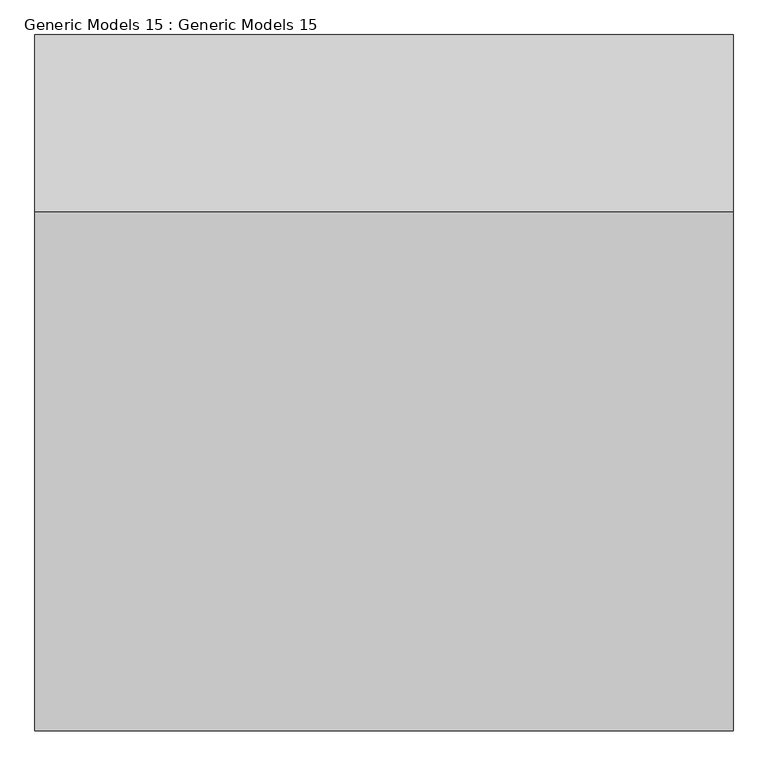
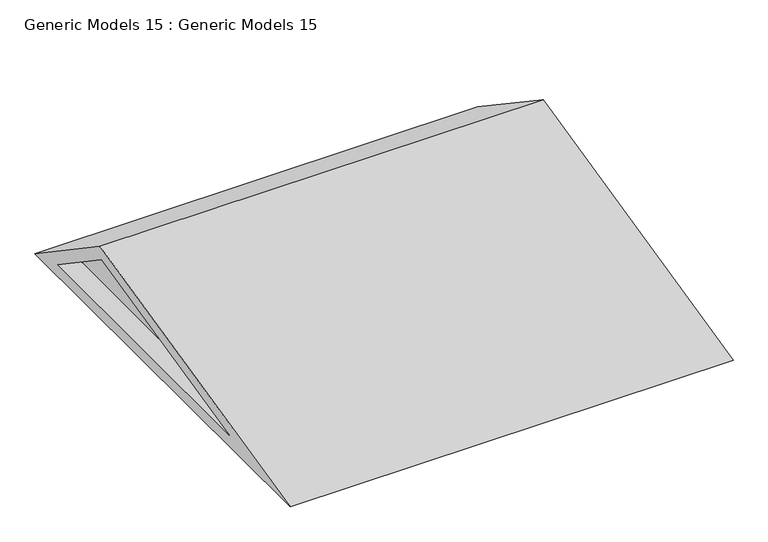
"""IFC4 building model written with IfcOpenShell, lengths in millimetres: proxy geometry, Generic Models 15 : Generic Models 15."""

from ifc_helpers import new_model, si_unit, origin, place, context, project, spatial, faceted_brep, source, transform, mapped, element, save


def generic_models_15_generic_models_15_5912c80d(model_context):
    return source(origin(), model_context, "Body", "Brep", [
        faceted_brep([(41163.9599236, 32793.7215248, 5750.0), (41163.9599236, 31384.3576515, 6700.6279359), (41163.9599236, 27266.7356817, 5750.0), (41163.9599236, 31354.5500853, 6539.8007009), (41163.9599236, 32303.093632, 5900.0), (41163.9599236, 28583.2687852, 5900.0), (35622.9045275, 32793.7215248, 5750.0), (35622.9045275, 27266.7356817, 5750.0), (35622.9045275, 31384.3576515, 6700.6279359), (35622.9045275, 28583.2687852, 5900.0), (35622.9045275, 32303.093632, 5900.0), (35622.9045275, 31354.5500853, 6539.8007009), (40913.9599236, 31354.5500853, 6539.8007009), (40913.9599236, 28583.2687852, 5900.0), (40913.9599236, 32303.093632, 5900.0), (35872.9045275, 28583.2687852, 5900.0), (35872.9045275, 31354.5500853, 6539.8007009), (35872.9045275, 32303.093632, 5900.0)], [[[0, 1, 2], [3, 4, 5]], [[6, 7, 8], [9, 10, 11]], [[1, 0, 6, 8]], [[2, 1, 8, 7]], [[0, 2, 7, 6]], [[12, 13, 14]], [[12, 14, 4, 3]], [[14, 13, 5, 4]], [[13, 12, 3, 5]], [[15, 16, 17]], [[15, 17, 10, 9]], [[17, 16, 11, 10]], [[16, 15, 9, 11]]]),
    ])


if __name__ == "__main__":
    model = new_model("IFC4")
    model_context = context("Model", 3, world=origin())
    ifc_project = project(units=[si_unit("LENGTHUNIT", "METRE", prefix="MILLI")], contexts=[model_context])
    site = spatial("IfcSite", under=ifc_project)
    building = spatial("IfcBuilding", under=site)
    placement = place(None, origin())
    generic_models_15_generic_models_15_shape = generic_models_15_generic_models_15_5912c80d(model_context)
    element("IfcBuildingElementProxy", 1, Name="Generic Models 15 : Generic Models 15", ObjectType="Generic Models 15 : Generic Models 15", at=placement, inside=building, context=model_context, shape_type="MappedRepresentation", body=[
        mapped(generic_models_15_generic_models_15_shape, transform((0.0, 0.0, 0.0), x_axis=(1.0, 0.0, 0.0), y_axis=(0.0, 1.0, 0.0), z_axis=(0.0, 0.0, 1.0))),
    ])
    save(model, "model.ifc")
